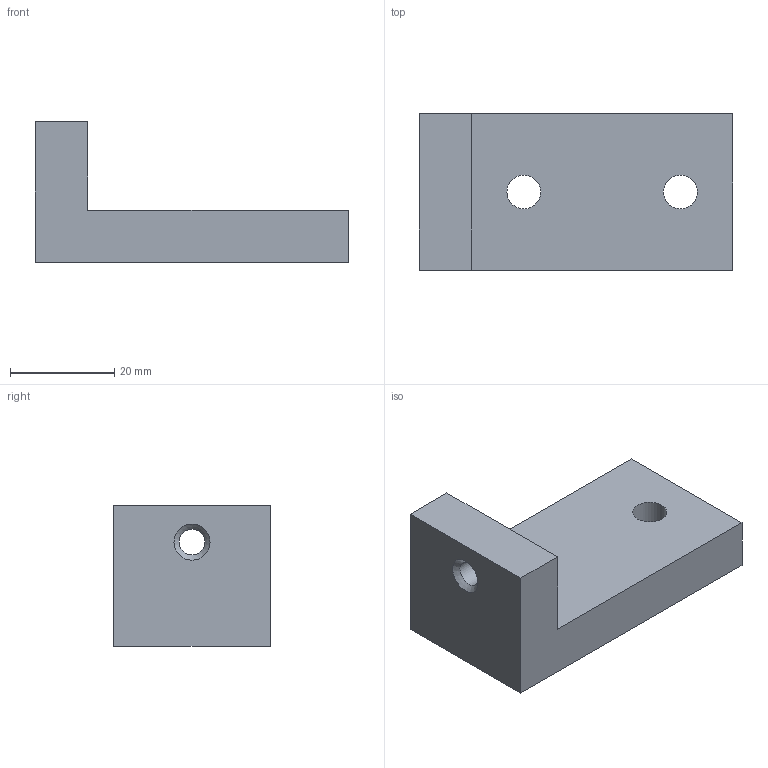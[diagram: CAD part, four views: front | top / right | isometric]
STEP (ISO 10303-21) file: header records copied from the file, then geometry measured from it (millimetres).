
FILE_DESCRIPTION(('STEP AP203'), '1');
FILE_NAME('眐珆1800.01.01.17.003 - 砑僗鴀', '', ('UNSPECIFIED'), ('UNSPECIFIED'), 'C3D Converter', 'C3D Toolkit', '');
FILE_SCHEMA(('CONFIG_CONTROL_DESIGN'));
Length unit declared in the file: millimetre
Products named in the file (1): ТППФ1800.01.01.17.003
Bounding box: 60 x 30 x 27 mm (x, y, z)
Volume: 22237.6 mm3; surface area: 7144.4 mm2
Topology: 1 solids, 1 shells, 12 faces, 29 edges, 19 vertices
Faces by surface type: plane 8, cylinder 3, cone 1
Full cylindrical faces by diameter (mm): 4.917 x1, 6.5 x2
Entity records: 480 total; most frequent: DIRECTION 58, CARTESIAN_POINT 57, ORIENTED_EDGE 50, EDGE_CURVE 25, EDGE_LOOP 22, AXIS2_PLACEMENT_3D 20, VERTEX_POINT 19, LINE 18
